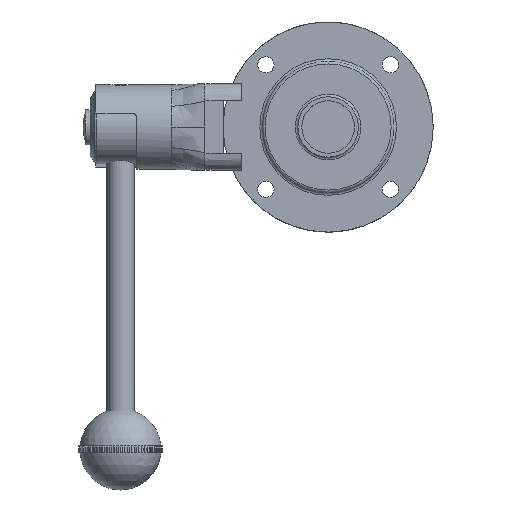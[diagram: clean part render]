
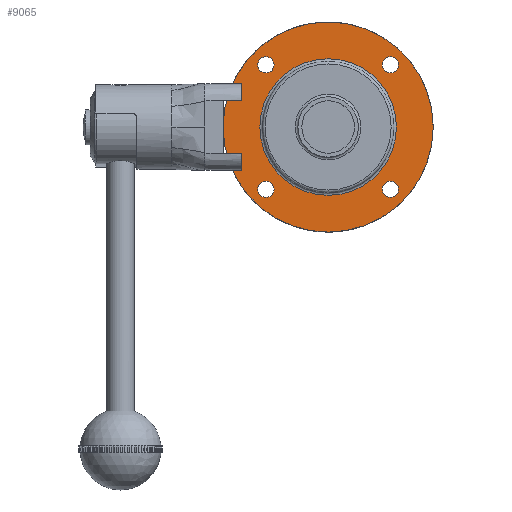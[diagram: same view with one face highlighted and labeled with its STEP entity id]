
A CAD part, top view. The second image highlights one B-rep face of the part: STEP entity #9065.
In plain terms, the highlighted planar face has unit normal (0, 0, 1) as drawn and (1, 0, 0) by its records, which use the part's own axes.
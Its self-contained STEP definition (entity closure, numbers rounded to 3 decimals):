
#829=FACE_BOUND('',#2444,.T.);
#830=FACE_BOUND('',#2445,.T.);
#831=FACE_BOUND('',#2446,.T.);
#832=FACE_BOUND('',#2447,.T.);
#833=FACE_BOUND('',#2448,.T.);
#1181=PLANE('',#10201);
#1825=FACE_OUTER_BOUND('',#2443,.T.);
#2443=EDGE_LOOP('',(#8504));
#2444=EDGE_LOOP('',(#8505));
#2445=EDGE_LOOP('',(#8506));
#2446=EDGE_LOOP('',(#8507));
#2447=EDGE_LOOP('',(#8508));
#2448=EDGE_LOOP('',(#8509));
#3873=CIRCLE('',#10185,40.);
#3877=CIRCLE('',#10194,3.1);
#3878=CIRCLE('',#10196,3.1);
#3879=CIRCLE('',#10198,3.1);
#3880=CIRCLE('',#10200,3.1);
#3881=CIRCLE('',#10202,26.);
#4715=VERTEX_POINT('',#26191);
#4719=VERTEX_POINT('',#26226);
#4720=VERTEX_POINT('',#26230);
#4721=VERTEX_POINT('',#26234);
#4722=VERTEX_POINT('',#26238);
#4723=VERTEX_POINT('',#26242);
#5971=EDGE_CURVE('',#4715,#4715,#3873,.T.);
#5980=EDGE_CURVE('',#4719,#4719,#3877,.T.);
#5982=EDGE_CURVE('',#4720,#4720,#3878,.T.);
#5984=EDGE_CURVE('',#4721,#4721,#3879,.T.);
#5986=EDGE_CURVE('',#4722,#4722,#3880,.T.);
#5987=EDGE_CURVE('',#4723,#4723,#3881,.T.);
#8504=ORIENTED_EDGE('',*,*,#5971,.T.);
#8505=ORIENTED_EDGE('',*,*,#5980,.T.);
#8506=ORIENTED_EDGE('',*,*,#5982,.T.);
#8507=ORIENTED_EDGE('',*,*,#5984,.T.);
#8508=ORIENTED_EDGE('',*,*,#5986,.T.);
#8509=ORIENTED_EDGE('',*,*,#5987,.F.);
#9065=ADVANCED_FACE('',(#1825,#829,#830,#831,#832,#833),#1181,.T.);
#10185=AXIS2_PLACEMENT_3D('',#26192,#12698,#12699);
#10194=AXIS2_PLACEMENT_3D('',#26228,#12719,#12720);
#10196=AXIS2_PLACEMENT_3D('',#26232,#12724,#12725);
#10198=AXIS2_PLACEMENT_3D('',#26236,#12729,#12730);
#10200=AXIS2_PLACEMENT_3D('',#26240,#12734,#12735);
#10201=AXIS2_PLACEMENT_3D('',#26241,#12736,#12737);
#10202=AXIS2_PLACEMENT_3D('',#26243,#12738,#12739);
#12698=DIRECTION('center_axis',(1.,0.,0.));
#12699=DIRECTION('ref_axis',(0.,0.,-1.));
#12719=DIRECTION('center_axis',(-1.,0.,0.));
#12720=DIRECTION('ref_axis',(0.,1.,0.));
#12724=DIRECTION('center_axis',(-1.,0.,0.));
#12725=DIRECTION('ref_axis',(0.,0.,-1.));
#12729=DIRECTION('center_axis',(-1.,0.,0.));
#12730=DIRECTION('ref_axis',(0.,-1.,0.));
#12734=DIRECTION('center_axis',(-1.,0.,0.));
#12735=DIRECTION('ref_axis',(0.,0.,1.));
#12736=DIRECTION('center_axis',(1.,0.,0.));
#12737=DIRECTION('ref_axis',(0.,0.,-1.));
#12738=DIRECTION('center_axis',(1.,0.,0.));
#12739=DIRECTION('ref_axis',(0.,0.,-1.));
#26191=CARTESIAN_POINT('',(10.,-40.,0.));
#26192=CARTESIAN_POINT('Origin',(10.,0.,0.));
#26226=CARTESIAN_POINT('',(10.,20.588,-23.688));
#26228=CARTESIAN_POINT('Origin',(10.,23.688,-23.688));
#26230=CARTESIAN_POINT('',(10.,-23.688,-20.588));
#26232=CARTESIAN_POINT('Origin',(10.,-23.688,-23.688));
#26234=CARTESIAN_POINT('',(10.,-20.588,23.688));
#26236=CARTESIAN_POINT('Origin',(10.,-23.688,23.688));
#26238=CARTESIAN_POINT('',(10.,23.688,20.588));
#26240=CARTESIAN_POINT('Origin',(10.,23.688,23.688));
#26241=CARTESIAN_POINT('Origin',(10.,26.,0.));
#26242=CARTESIAN_POINT('',(10.,0.,26.));
#26243=CARTESIAN_POINT('Origin',(10.,0.,0.));
